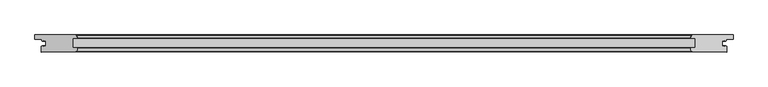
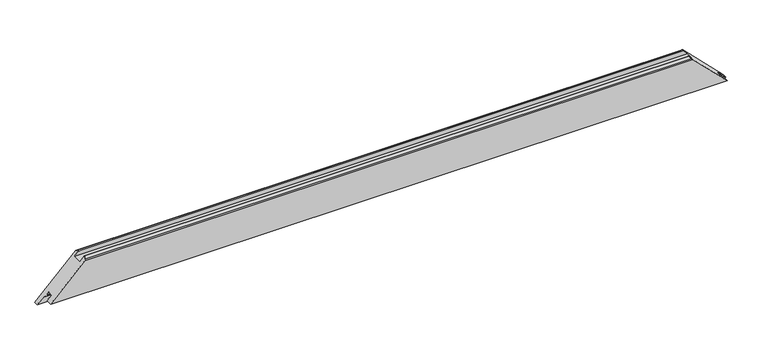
"""IFC4 building model written with IfcOpenShell, lengths in millimetres: proxy geometry, Weiku - Montante - Folha 02.2.01.019-039 : Weiku - Montante - Folha 02.2.01.019-039."""

from ifc_helpers import new_model, si_unit, frame, origin, place, context, project, spatial, ellipse_curve, source, transform, mapped, element, save
from ifc_brep_helpers import plane_surface, cylinder_surface, advanced_brep


def generic_models_23059907(model_context):
    return source(origin(), model_context, "Body", "AdvancedBrep", [
        advanced_brep(
        [(1003.5000338, -50.0, 17.9999662), (1003.5000338, -33.1, 17.9999662), (999.3, -33.1, 22.2), (999.3, -31.1, 22.2), (996.5, -31.1, 25.0), (996.5, -33.1, 25.0), (990.0, -33.1, 31.5), (990.0, -16.9, 31.5), (996.5, -16.9, 25.0), (996.5, -18.9, 25.0), (999.3, -18.9, 22.2), (999.3, -16.9, 22.2), (1001.5, -16.9, 20.0), (1001.5, -12.5, 20.0), (1021.5, -12.5, 0.0), (1021.5, 0.0, 0.0), (900.9852854, 0.0, 120.5147146), (900.0913247, -0.5518546, 121.4086753), (896.5493385, -7.617411, 124.9506615), (897.7114874, -9.5, 123.7885126), (910.498059, -9.5, 111.001941), (910.498059, -37.5, 111.001941), (896.998059, -37.5, 124.501941), (896.5150961, -38.1294095, 124.9849039), (899.1000147, -47.7764571, 122.3999853), (901.9977922, -50.0, 119.5022078), (-901.9977922, -50.0, 119.5022078), (-899.1000147, -47.7764571, 122.3999853), (-896.5150961, -38.1294095, 124.9849039), (-896.998059, -37.5, 124.501941), (-910.498059, -37.5, 111.001941), (-910.498059, -9.5, 111.001941), (-897.7114874, -9.5, 123.7885126), (-896.5493385, -7.617411, 124.9506615), (-900.0913247, -0.5518546, 121.4086753), (-900.9852854, 0.0, 120.5147146), (-1021.5, 0.0, 0.0), (-1021.5, -12.5, 0.0), (-1001.5, -12.5, 20.0), (-1001.5, -16.9, 20.0), (-999.3, -16.9, 22.2), (-999.3, -18.9, 22.2), (-996.5, -18.9, 25.0), (-996.5, -16.9, 25.0), (-990.0, -16.9, 31.5), (-990.0, -33.1, 31.5), (-996.5, -33.1, 25.0), (-996.5, -31.1, 25.0), (-999.3, -31.1, 22.2), (-999.3, -33.1, 22.2), (-1003.5000338, -33.1, 17.9999662), (-1003.5000338, -50.0, 17.9999662)],
        [
            (0, 1),
            (1, 2),
            (2, 3),
            (3, 4),
            (4, 5),
            (5, 6),
            (6, 7),
            (7, 8),
            (8, 9),
            (9, 10),
            (10, 11),
            (11, 12),
            (12, 13),
            (13, 14),
            (14, 15),
            (15, 16),
            (16, 17, ellipse_curve(frame((900.9852854, -1.0, 120.5147146), z_axis=(0.7071067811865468, 0.0, 0.7071067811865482), x_axis=(-0.7071067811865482, 0.0, 0.7071067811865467)), 1.4142136, 1.0)),
            (17, 18),
            (18, 19, ellipse_curve(frame((897.7114874, -8.2, 123.7885126), z_axis=(0.7071067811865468, 0.0, 0.7071067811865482), x_axis=(-0.7071067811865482, 0.0, 0.7071067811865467)), 1.8384776, 1.3)),
            (19, 20),
            (20, 21),
            (21, 22),
            (22, 23, ellipse_curve(frame((896.998059, -38.0, 124.501941), z_axis=(0.7071067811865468, 0.0, 0.7071067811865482), x_axis=(-0.7071067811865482, 0.0, 0.7071067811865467)), 0.7071068, 0.5)),
            (23, 24),
            (24, 25, ellipse_curve(frame((901.9977922, -47.0, 119.5022078), z_axis=(0.7071067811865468, 0.0, 0.7071067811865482), x_axis=(-0.7071067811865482, 0.0, 0.7071067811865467)), 4.2426407, 3.0)),
            (25, 0),
            (26, 27, ellipse_curve(frame((-901.9977922, -47.0, 119.5022078), z_axis=(-0.7071067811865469, 0.0, 0.7071067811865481), x_axis=(-0.7071067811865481, 0.0, -0.7071067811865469)), 4.2426407, 3.0)),
            (27, 28),
            (28, 29, ellipse_curve(frame((-896.998059, -38.0, 124.501941), z_axis=(-0.7071067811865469, 0.0, 0.7071067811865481), x_axis=(-0.7071067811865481, 0.0, -0.7071067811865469)), 0.7071068, 0.5)),
            (29, 30),
            (30, 31),
            (31, 32),
            (32, 33, ellipse_curve(frame((-897.7114874, -8.2, 123.7885126), z_axis=(-0.7071067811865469, 0.0, 0.7071067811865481), x_axis=(-0.7071067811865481, 0.0, -0.7071067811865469)), 1.8384776, 1.3)),
            (33, 34),
            (34, 35, ellipse_curve(frame((-900.9852854, -1.0, 120.5147146), z_axis=(-0.7071067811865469, 0.0, 0.7071067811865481), x_axis=(-0.7071067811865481, 0.0, -0.7071067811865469)), 1.4142136, 1.0)),
            (35, 36),
            (36, 37),
            (37, 38),
            (38, 39),
            (39, 40),
            (40, 41),
            (41, 42),
            (42, 43),
            (43, 44),
            (44, 45),
            (45, 46),
            (46, 47),
            (47, 48),
            (48, 49),
            (49, 50),
            (50, 51),
            (51, 26),
            (25, 26),
            (51, 0),
            (50, 1),
            (49, 2),
            (48, 3),
            (47, 4),
            (46, 5),
            (45, 6),
            (44, 7),
            (43, 8),
            (42, 9),
            (41, 10),
            (40, 11),
            (39, 12),
            (38, 13),
            (37, 14),
            (36, 15),
            (35, 16),
            (34, 17),
            (33, 18),
            (32, 19),
            (31, 20),
            (30, 21),
            (29, 22),
            (28, 23),
            (27, 24),
        ],
        [
            plane_surface(frame((891.5, 13.0, 130.0), z_axis=(0.7071067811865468, 0.0, 0.7071067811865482), x_axis=(0.0, -1.0, 0.0))),
            plane_surface(frame((-1049.7842712, 13.0, -28.2842712), z_axis=(-0.7071067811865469, 0.0, 0.7071067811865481), x_axis=(0.0, -1.0, 0.0))),
            plane_surface(frame((-1021.5, -50.0, 119.5022078), z_axis=(0.0, -1.0, 0.0), x_axis=(1.0, 0.0, 0.0))),
            plane_surface(frame((-1021.5, -50.0, 17.9999662), z_axis=(0.0, 0.0, -1.0), x_axis=(1.0, 0.0, 0.0))),
            plane_surface(frame((-1021.5, -33.1, 17.9999662), z_axis=(0.0, 1.0, 0.0), x_axis=(1.0, 0.0, 0.0))),
            plane_surface(frame((-1021.5, -33.1, 22.2), z_axis=(0.0, 0.0, -1.0), x_axis=(1.0, 0.0, 0.0))),
            plane_surface(frame((-1021.5, -31.1, 22.2), z_axis=(0.0, 1.0, 0.0), x_axis=(1.0, 0.0, 0.0))),
            plane_surface(frame((-1021.5, -31.1, 25.0), z_axis=(0.0, 0.0, 1.0), x_axis=(1.0, 0.0, 0.0))),
            plane_surface(frame((-1021.5, -33.1, 25.0), z_axis=(0.0, 1.0, 0.0), x_axis=(1.0, 0.0, 0.0))),
            plane_surface(frame((-1021.5, -33.1, 31.5), z_axis=(0.0, 0.0, -1.0), x_axis=(1.0, 0.0, 0.0))),
            plane_surface(frame((-1021.5, -16.9, 31.5), z_axis=(0.0, -1.0, 0.0), x_axis=(1.0, 0.0, 0.0))),
            plane_surface(frame((-1021.5, -16.9, 25.0), z_axis=(0.0, 0.0, 1.0), x_axis=(1.0, 0.0, 0.0))),
            plane_surface(frame((-1021.5, -18.9, 25.0), z_axis=(0.0, -1.0, 0.0), x_axis=(1.0, 0.0, 0.0))),
            plane_surface(frame((-1021.5, -18.9, 22.2), z_axis=(0.0, 0.0, -1.0), x_axis=(1.0, 0.0, 0.0))),
            plane_surface(frame((-1021.5, -16.9, 22.2), z_axis=(0.0, -1.0, 0.0), x_axis=(1.0, 0.0, 0.0))),
            plane_surface(frame((-1021.5, -16.9, 20.0), z_axis=(0.0, 0.0, -1.0), x_axis=(1.0, 0.0, 0.0))),
            plane_surface(frame((-1021.5, -12.5, 20.0), z_axis=(0.0, -1.0, 0.0), x_axis=(1.0, 0.0, 0.0))),
            plane_surface(frame((-1021.5, -12.5, 0.0), z_axis=(0.0, 0.0, -1.0), x_axis=(1.0, 0.0, 0.0))),
            plane_surface(frame((-1021.5, 0.0, 0.0), z_axis=(0.0, 1.0, 0.0), x_axis=(1.0, 0.0, 0.0))),
            cylinder_surface(frame((-1021.5, -1.0, 120.5147146), z_axis=(-1.0, 0.0, 0.0), x_axis=(0.0, -1.0, 0.0)), 1.0),
            plane_surface(frame((-1021.5, -0.5518546, 121.4086753), z_axis=(0.0, 0.4481453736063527, 0.8939606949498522), x_axis=(1.0, 0.0, 0.0))),
            cylinder_surface(frame((-1021.5, -8.2, 123.7885126), z_axis=(-1.0, 0.0, 0.0), x_axis=(0.0, -1.0, 0.0)), 1.3),
            plane_surface(frame((-1021.5, -9.5, 123.7885126), z_axis=(0.0, -1.0, 0.0), x_axis=(1.0, 0.0, 0.0))),
            plane_surface(frame((-1021.5, -9.5, 111.001941), z_axis=(0.0, 0.0, 1.0), x_axis=(1.0, 0.0, 0.0))),
            plane_surface(frame((-1021.5, -37.5, 111.001941), z_axis=(0.0, 1.0, 0.0), x_axis=(1.0, 0.0, 0.0))),
            cylinder_surface(frame((-1021.5, -38.0, 124.501941), z_axis=(-1.0, 0.0, 0.0), x_axis=(0.0, -1.0, 0.0)), 0.5),
            plane_surface(frame((-1021.5, -38.1294095, 124.9849039), z_axis=(0.0, -0.2588190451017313, 0.9659258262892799), x_axis=(1.0, 0.0, 0.0))),
            cylinder_surface(frame((-1021.5, -47.0, 119.5022078), z_axis=(-1.0, 0.0, 0.0), x_axis=(0.0, -1.0, 0.0)), 3.0),
        ],
        [
            (0, [[1, 2, 3, 4, 5, 6, 7, 8, 9, 10, 11, 12, 13, 14, 15, 16, 17, 18, 19, 20, 21, 22, 23, 24, 25, 26]]),
            (1, [[27, 28, 29, 30, 31, 32, 33, 34, 35, 36, 37, 38, 39, 40, 41, 42, 43, 44, 45, 46, 47, 48, 49, 50, 51, 52]]),
            (2, [[53, -52, 54, -26]]),
            (3, [[-54, -51, 55, -1]]),
            (4, [[-55, -50, 56, -2]]),
            (5, [[-56, -49, 57, -3]]),
            (6, [[-57, -48, 58, -4]]),
            (7, [[-58, -47, 59, -5]]),
            (8, [[-59, -46, 60, -6]]),
            (9, [[-60, -45, 61, -7]]),
            (10, [[-61, -44, 62, -8]]),
            (11, [[-62, -43, 63, -9]]),
            (12, [[-63, -42, 64, -10]]),
            (13, [[-64, -41, 65, -11]]),
            (14, [[-65, -40, 66, -12]]),
            (15, [[-66, -39, 67, -13]]),
            (16, [[-14, -67, -38, 68]]),
            (17, [[-37, 69, -15, -68]]),
            (18, [[-36, 70, -16, -69]]),
            (19, [[-70, -35, 71, -17]]),
            (20, [[-71, -34, 72, -18]]),
            (21, [[-72, -33, 73, -19]]),
            (22, [[-73, -32, 74, -20]]),
            (23, [[-74, -31, 75, -21]]),
            (24, [[-75, -30, 76, -22]]),
            (25, [[-76, -29, 77, -23]]),
            (26, [[-77, -28, 78, -24]]),
            (27, [[-78, -27, -53, -25]]),
        ],
    ),
    ])


if __name__ == "__main__":
    model = new_model("IFC4")
    model_context = context("Model", 3, world=origin())
    ifc_project = project(units=[si_unit("LENGTHUNIT", "METRE", prefix="MILLI")], contexts=[model_context])
    site = spatial("IfcSite", under=ifc_project)
    building = spatial("IfcBuilding", under=site)
    placement = place(None, origin())
    generic_models_shape = generic_models_23059907(model_context)
    element("IfcBuildingElementProxy", 1, Name="Weiku - Montante - Folha 02.2.01.019-039 : Weiku - Montante - Folha 02.2.01.019-039", ObjectType="Weiku - Montante - Folha 02.2.01.019-039 : Weiku - Montante - Folha 02.2.01.019-039", at=placement, inside=building, context=model_context, shape_type="MappedRepresentation", body=[
        mapped(generic_models_shape, transform((0.0, 0.0, 0.0), x_axis=(1.0, 0.0, 0.0), y_axis=(0.0, 1.0, 0.0), z_axis=(0.0, 0.0, 1.0))),
    ])
    save(model, "model.ifc")
